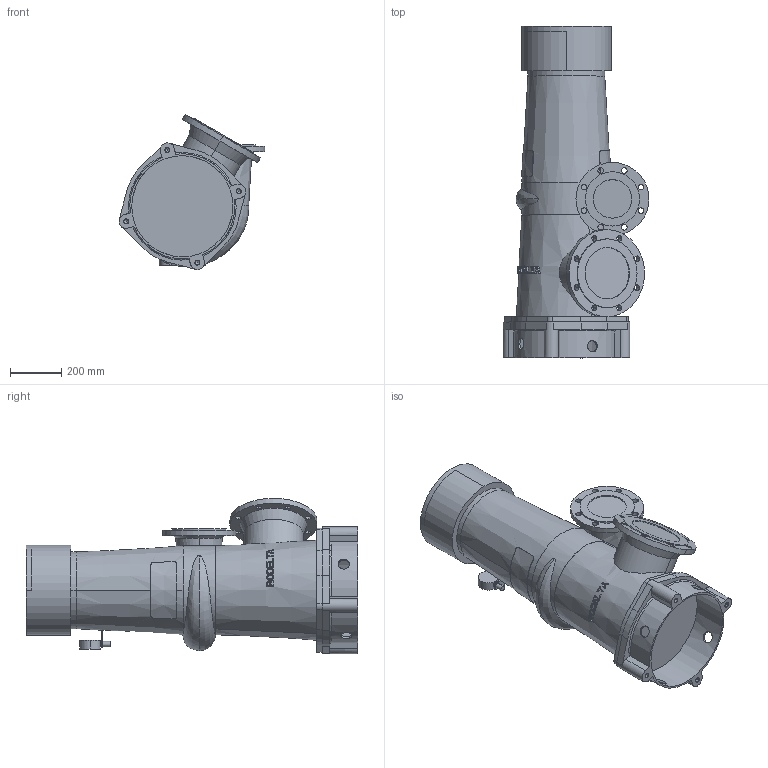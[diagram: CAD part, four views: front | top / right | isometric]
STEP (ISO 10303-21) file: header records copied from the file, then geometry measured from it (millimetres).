
FILE_DESCRIPTION((''),'2;1');
FILE_NAME('7310_ASM','2024-07-23T',('Lyritlocal'),(''),'PRO/ENGINEER BY PARAMETRIC TECHNOLOGY CORPORATION, 2016360','PRO/ENGINEER BY PARAMETRIC TECHNOLOGY CORPORATION, 2016360','');
FILE_SCHEMA(('CONFIG_CONTROL_DESIGN'));
Length unit declared in the file: millimetre
Products named in the file (3): 7310_VOET; 7310; 7310_ASM
Assembly tree (2 placements, depth 2):
  7310_ASM
    7310_VOET
    7310
Bounding box: 569.65 x 1295 x 605.81 mm (x, y, z)
Volume: 130921154 mm3; surface area: 2758235.8 mm2
Topology: 2 solids, 6 shells, 520 faces, 1400 edges, 927 vertices
Faces by surface type: plane 343, cylinder 129, cone 38, bspline 6, torus 4
Entity records: 18158 total; most frequent: CARTESIAN_POINT 5526, ORIENTED_EDGE 2768, DIRECTION 2357, EDGE_CURVE 1392, VERTEX_POINT 927, AXIS2_PLACEMENT_3D 912, EDGE_LOOP 611, VECTOR 533
